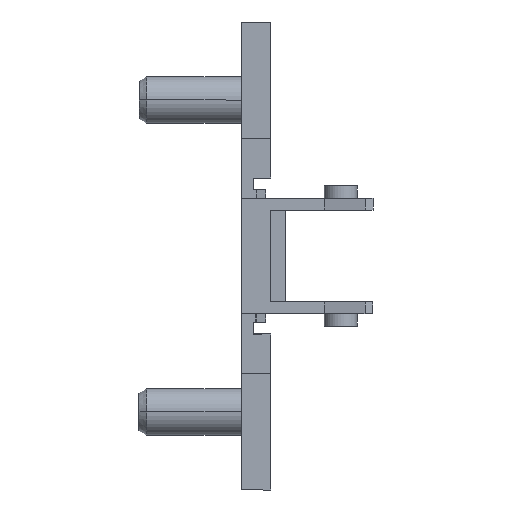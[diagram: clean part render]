
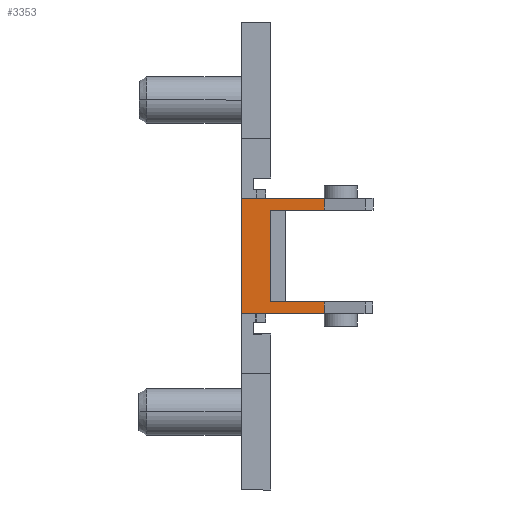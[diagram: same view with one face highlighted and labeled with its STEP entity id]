
A CAD part, front view. The second image highlights one B-rep face of the part: STEP entity #3353.
In plain terms, the highlighted planar face has unit normal (0, -1, 0).
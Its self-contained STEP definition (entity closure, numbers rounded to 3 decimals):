
#18 = LINE ( 'NONE', #3644, #3064 ) ;
#32 = EDGE_CURVE ( 'NONE', #35, #1080, #2627, .T. ) ;
#35 = VERTEX_POINT ( 'NONE', #4165 ) ;
#55 = CARTESIAN_POINT ( 'NONE',  ( 10.5, -25.55, 4.7 ) ) ;
#105 = LINE ( 'NONE', #1524, #1039 ) ;
#115 = DIRECTION ( 'NONE',  ( 0., 0., -1. ) ) ;
#200 = CARTESIAN_POINT ( 'NONE',  ( -3., -25.55, -5.9 ) ) ;
#244 = DIRECTION ( 'NONE',  ( 1., 0., 0. ) ) ;
#287 = AXIS2_PLACEMENT_3D ( 'NONE', #2003, #4454, #1694 ) ;
#354 = DIRECTION ( 'NONE',  ( -1., 0., 0. ) ) ;
#390 = LINE ( 'NONE', #2510, #4294 ) ;
#709 = EDGE_CURVE ( 'NONE', #1080, #3237, #390, .T. ) ;
#813 = ORIENTED_EDGE ( 'NONE', *, *, #1189, .T. ) ;
#1039 = VECTOR ( 'NONE', #2865, 1000. ) ;
#1080 = VERTEX_POINT ( 'NONE', #1773 ) ;
#1103 = LINE ( 'NONE', #55, #1973 ) ;
#1126 = DIRECTION ( 'NONE',  ( 0., 0., -1. ) ) ;
#1189 = EDGE_CURVE ( 'NONE', #2380, #1353, #1103, .T. ) ;
#1348 = FACE_OUTER_BOUND ( 'NONE', #3639, .T. ) ;
#1353 = VERTEX_POINT ( 'NONE', #4350 ) ;
#1382 = CARTESIAN_POINT ( 'NONE',  ( -1.5, -25.55, -5.9 ) ) ;
#1524 = CARTESIAN_POINT ( 'NONE',  ( 5.523, -25.55, 67.733 ) ) ;
#1587 = CARTESIAN_POINT ( 'NONE',  ( 0., -25.55, 4.7 ) ) ;
#1694 = DIRECTION ( 'NONE',  ( -1., 0., 0. ) ) ;
#1773 = CARTESIAN_POINT ( 'NONE',  ( -3., -25.55, 5.9 ) ) ;
#1777 = EDGE_CURVE ( 'NONE', #2481, #3244, #105, .T. ) ;
#1798 = ORIENTED_EDGE ( 'NONE', *, *, #1913, .F. ) ;
#1913 = EDGE_CURVE ( 'NONE', #35, #1353, #3893, .T. ) ;
#1970 = DIRECTION ( 'NONE',  ( 1., 0., 0. ) ) ;
#1973 = VECTOR ( 'NONE', #3581, 1000. ) ;
#1985 = CARTESIAN_POINT ( 'NONE',  ( 10.5, -25.55, -4.7 ) ) ;
#2003 = CARTESIAN_POINT ( 'NONE',  ( 10.5, -25.55, -5.9 ) ) ;
#2106 = ORIENTED_EDGE ( 'NONE', *, *, #32, .T. ) ;
#2347 = ORIENTED_EDGE ( 'NONE', *, *, #709, .T. ) ;
#2380 = VERTEX_POINT ( 'NONE', #1587 ) ;
#2388 = ORIENTED_EDGE ( 'NONE', *, *, #1777, .F. ) ;
#2405 = EDGE_CURVE ( 'NONE', #4161, #2481, #3251, .T. ) ;
#2481 = VERTEX_POINT ( 'NONE', #3139 ) ;
#2510 = CARTESIAN_POINT ( 'NONE',  ( -3., -25.55, 15.37 ) ) ;
#2595 = VECTOR ( 'NONE', #1970, 1000. ) ;
#2627 = LINE ( 'NONE', #3102, #3219 ) ;
#2842 = EDGE_CURVE ( 'NONE', #3237, #3244, #3363, .T. ) ;
#2865 = DIRECTION ( 'NONE',  ( 0., 0., -1. ) ) ;
#2915 = DIRECTION ( 'NONE',  ( 0., 0., -1. ) ) ;
#2927 = ORIENTED_EDGE ( 'NONE', *, *, #2842, .T. ) ;
#3021 = PLANE ( 'NONE',  #287 ) ;
#3064 = VECTOR ( 'NONE', #2915, 1000. ) ;
#3102 = CARTESIAN_POINT ( 'NONE',  ( 10.5, -25.55, 5.9 ) ) ;
#3139 = CARTESIAN_POINT ( 'NONE',  ( 5.523, -25.55, -4.7 ) ) ;
#3219 = VECTOR ( 'NONE', #354, 1000. ) ;
#3237 = VERTEX_POINT ( 'NONE', #200 ) ;
#3241 = VECTOR ( 'NONE', #244, 1000. ) ;
#3244 = VERTEX_POINT ( 'NONE', #3655 ) ;
#3251 = LINE ( 'NONE', #1985, #2595 ) ;
#3266 = CARTESIAN_POINT ( 'NONE',  ( 0., -25.55, -4.7 ) ) ;
#3287 = ORIENTED_EDGE ( 'NONE', *, *, #4283, .F. ) ;
#3353 = ADVANCED_FACE ( 'NONE', ( #1348 ), #3021, .T. ) ;
#3363 = LINE ( 'NONE', #1382, #3241 ) ;
#3581 = DIRECTION ( 'NONE',  ( 1., 0., 0. ) ) ;
#3639 = EDGE_LOOP ( 'NONE', ( #3287, #813, #1798, #2106, #2347, #2927, #2388, #3933 ) ) ;
#3644 = CARTESIAN_POINT ( 'NONE',  ( 0., -25.55, -5.9 ) ) ;
#3655 = CARTESIAN_POINT ( 'NONE',  ( 5.523, -25.55, -5.9 ) ) ;
#3662 = VECTOR ( 'NONE', #115, 1000. ) ;
#3893 = LINE ( 'NONE', #4326, #3662 ) ;
#3933 = ORIENTED_EDGE ( 'NONE', *, *, #2405, .F. ) ;
#4161 = VERTEX_POINT ( 'NONE', #3266 ) ;
#4165 = CARTESIAN_POINT ( 'NONE',  ( 5.523, -25.55, 5.9 ) ) ;
#4283 = EDGE_CURVE ( 'NONE', #2380, #4161, #18, .T. ) ;
#4294 = VECTOR ( 'NONE', #1126, 1000. ) ;
#4326 = CARTESIAN_POINT ( 'NONE',  ( 5.523, -25.55, 67.733 ) ) ;
#4350 = CARTESIAN_POINT ( 'NONE',  ( 5.523, -25.55, 4.7 ) ) ;
#4454 = DIRECTION ( 'NONE',  ( 0., -1., 0. ) ) ;
